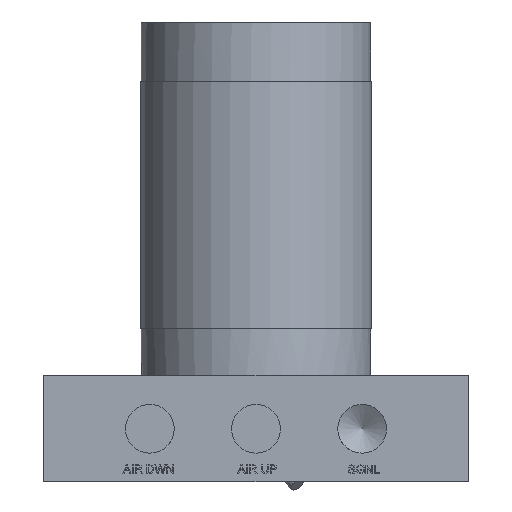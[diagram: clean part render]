
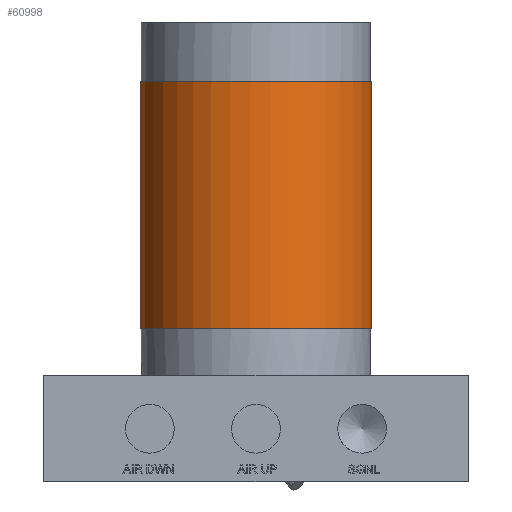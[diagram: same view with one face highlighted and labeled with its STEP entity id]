
A CAD part, front view. The second image highlights one B-rep face of the part: STEP entity #60998.
In plain terms, the highlighted cylindrical face has radius 20.765 mm (diameter 41.529 mm), a full revolution.
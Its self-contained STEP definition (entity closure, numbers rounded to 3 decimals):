
#3609=FACE_OUTER_BOUND('',#7585,.T.);
#7585=EDGE_LOOP('',(#38337,#38338,#38339,#38340));
#14895=LINE('',#86305,#16895);
#16895=VECTOR('',#71264,20.765);
#18837=CIRCLE('',#65179,20.765);
#18840=CIRCLE('',#65183,20.765);
#23280=VERTEX_POINT('',#86291);
#23283=VERTEX_POINT('',#86298);
#28908=EDGE_CURVE('',#23280,#23280,#18837,.T.);
#28911=EDGE_CURVE('',#23283,#23283,#18840,.T.);
#28914=EDGE_CURVE('',#23283,#23280,#14895,.T.);
#38337=ORIENTED_EDGE('',*,*,#28911,.T.);
#38338=ORIENTED_EDGE('',*,*,#28914,.T.);
#38339=ORIENTED_EDGE('',*,*,#28908,.F.);
#38340=ORIENTED_EDGE('',*,*,#28914,.F.);
#56356=CYLINDRICAL_SURFACE('',#65186,20.765);
#60998=ADVANCED_FACE('',(#3609),#56356,.T.);
#65179=AXIS2_PLACEMENT_3D('',#86292,#71248,#71249);
#65183=AXIS2_PLACEMENT_3D('',#86299,#71256,#71257);
#65186=AXIS2_PLACEMENT_3D('',#86304,#71262,#71263);
#71248=DIRECTION('center_axis',(0.,0.,-1.));
#71249=DIRECTION('ref_axis',(-0.054,-0.999,0.));
#71256=DIRECTION('center_axis',(0.,0.,-1.));
#71257=DIRECTION('ref_axis',(-0.054,-0.999,0.));
#71262=DIRECTION('center_axis',(0.,0.,1.));
#71263=DIRECTION('ref_axis',(-0.054,-0.999,0.));
#71264=DIRECTION('',(0.,0.,-1.));
#86291=CARTESIAN_POINT('',(1.131,20.734,27.456));
#86292=CARTESIAN_POINT('Origin',(0.,0.,
27.456));
#86298=CARTESIAN_POINT('',(1.131,20.734,71.906));
#86299=CARTESIAN_POINT('Origin',(0.,0.,
71.906));
#86304=CARTESIAN_POINT('Origin',(0.,0.,
27.456));
#86305=CARTESIAN_POINT('',(1.131,20.734,27.456));
